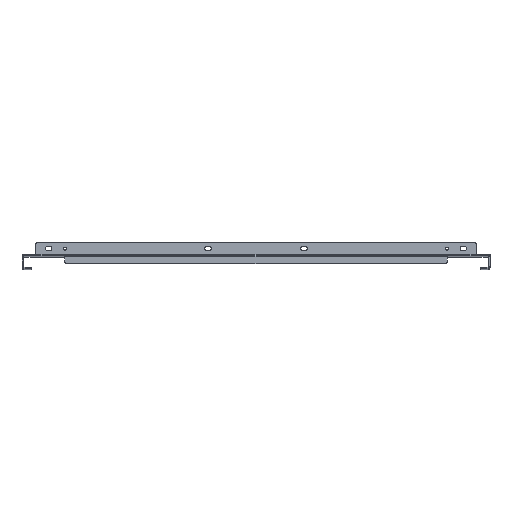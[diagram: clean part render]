
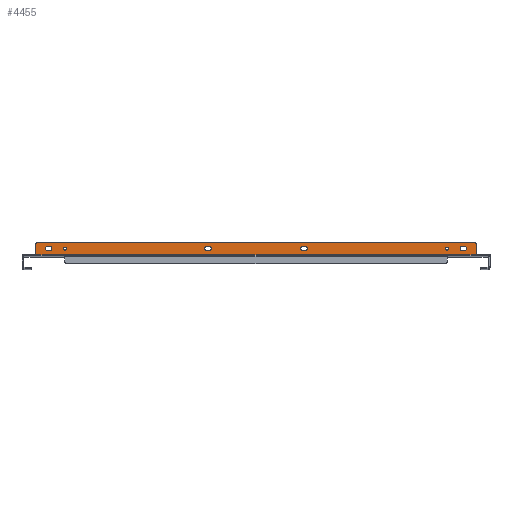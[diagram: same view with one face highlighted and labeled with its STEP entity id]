
A CAD part, top view. The second image highlights one B-rep face of the part: STEP entity #4455.
In plain terms, the highlighted planar face has unit normal (0, 0, 1).
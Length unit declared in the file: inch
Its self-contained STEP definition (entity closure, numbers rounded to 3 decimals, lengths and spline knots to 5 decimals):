
#1460=DIRECTION('',(-1.,0.,0.));
#1461=VECTOR('',#1460,40.807);
#1462=CARTESIAN_POINT('',(20.4035,0.07,-66.281));
#1463=LINE('',#1462,#1461);
#1707=CARTESIAN_POINT('',(20.1535,1.,-66.281));
#1708=DIRECTION('',(0.,0.,1.));
#1709=DIRECTION('',(1.,0.,0.));
#1710=AXIS2_PLACEMENT_3D('',#1707,#1708,#1709);
#1715=DIRECTION('',(0.,-1.,0.));
#1716=VECTOR('',#1715,0.93);
#1717=CARTESIAN_POINT('',(20.4035,1.,-66.281));
#1718=LINE('',#1717,#1716);
#1722=DIRECTION('',(0.,1.,0.));
#1723=VECTOR('',#1722,0.93);
#1724=CARTESIAN_POINT('',(-20.4035,0.07,-66.281));
#1725=LINE('',#1724,#1723);
#1729=CARTESIAN_POINT('',(-20.1535,1.,-66.281));
#1730=DIRECTION('',(0.,0.,1.));
#1731=DIRECTION('',(0.,1.,0.));
#1732=AXIS2_PLACEMENT_3D('',#1729,#1730,#1731);
#1737=DIRECTION('',(1.,0.,0.));
#1738=VECTOR('',#1737,40.307);
#1739=CARTESIAN_POINT('',(-20.1535,1.25,-66.281));
#1740=LINE('',#1739,#1738);
#1744=CARTESIAN_POINT('',(19.3334,0.6875,-66.281));
#1745=DIRECTION('',(0.,0.,1.));
#1746=DIRECTION('',(0.,-1.,0.));
#1747=AXIS2_PLACEMENT_3D('',#1744,#1745,#1746);
#1752=DIRECTION('',(1.,0.,0.));
#1753=VECTOR('',#1752,0.281);
#1754=CARTESIAN_POINT('',(19.0524,0.8595,-66.281));
#1755=LINE('',#1754,#1753);
#1759=CARTESIAN_POINT('',(19.0524,0.6875,-66.281));
#1760=DIRECTION('',(0.,0.,1.));
#1761=DIRECTION('',(0.,1.,0.));
#1762=AXIS2_PLACEMENT_3D('',#1759,#1760,#1761);
#1767=DIRECTION('',(-1.,0.,0.));
#1768=VECTOR('',#1767,0.281);
#1769=CARTESIAN_POINT('',(19.3334,0.5155,-66.281));
#1770=LINE('',#1769,#1768);
#1774=DIRECTION('',(1.,0.,0.));
#1775=VECTOR('',#1774,0.281);
#1776=CARTESIAN_POINT('',(-19.3334,0.8595,-66.281));
#1777=LINE('',#1776,#1775);
#1781=CARTESIAN_POINT('',(-19.3334,0.6875,-66.281));
#1782=DIRECTION('',(0.,0.,1.));
#1783=DIRECTION('',(0.,1.,0.));
#1784=AXIS2_PLACEMENT_3D('',#1781,#1782,#1783);
#1789=DIRECTION('',(-1.,0.,0.));
#1790=VECTOR('',#1789,0.281);
#1791=CARTESIAN_POINT('',(-19.0524,0.5155,-66.281));
#1792=LINE('',#1791,#1790);
#1796=CARTESIAN_POINT('',(-19.0524,0.6875,-66.281));
#1797=DIRECTION('',(0.,0.,1.));
#1798=DIRECTION('',(0.,-1.,0.));
#1799=AXIS2_PLACEMENT_3D('',#1796,#1797,#1798);
#1804=CARTESIAN_POINT('',(17.6929,0.6875,-66.281));
#1805=DIRECTION('',(0.,0.,1.));
#1806=DIRECTION('',(1.,0.,0.));
#1807=AXIS2_PLACEMENT_3D('',#1804,#1805,#1806);
#1812=CARTESIAN_POINT('',(17.6929,0.6875,-66.281));
#1813=DIRECTION('',(0.,0.,1.));
#1814=DIRECTION('',(-1.,0.,0.));
#1815=AXIS2_PLACEMENT_3D('',#1812,#1813,#1814);
#1820=CARTESIAN_POINT('',(-17.6929,0.6875,-66.281));
#1821=DIRECTION('',(0.,0.,1.));
#1822=DIRECTION('',(1.,0.,0.));
#1823=AXIS2_PLACEMENT_3D('',#1820,#1821,#1822);
#1828=CARTESIAN_POINT('',(-17.6929,0.6875,-66.281));
#1829=DIRECTION('',(0.,0.,1.));
#1830=DIRECTION('',(-1.,0.,0.));
#1831=AXIS2_PLACEMENT_3D('',#1828,#1829,#1830);
#1836=DIRECTION('',(-1.,0.,0.));
#1837=VECTOR('',#1836,0.281);
#1838=CARTESIAN_POINT('',(4.56963,0.8595,-66.281));
#1839=LINE('',#1838,#1837);
#1843=CARTESIAN_POINT('',(4.28863,0.6875,-66.281));
#1844=DIRECTION('',(0.,0.,-1.));
#1845=DIRECTION('',(0.,-1.,0.));
#1846=AXIS2_PLACEMENT_3D('',#1843,#1844,#1845);
#1851=DIRECTION('',(1.,0.,0.));
#1852=VECTOR('',#1851,0.281);
#1853=CARTESIAN_POINT('',(4.28863,0.5155,-66.281));
#1854=LINE('',#1853,#1852);
#1858=CARTESIAN_POINT('',(4.56963,0.6875,-66.281));
#1859=DIRECTION('',(0.,0.,-1.));
#1860=DIRECTION('',(0.,1.,0.));
#1861=AXIS2_PLACEMENT_3D('',#1858,#1859,#1860);
#1866=DIRECTION('',(-1.,0.,0.));
#1867=VECTOR('',#1866,0.281);
#1868=CARTESIAN_POINT('',(-4.28863,0.8595,-66.281));
#1869=LINE('',#1868,#1867);
#1873=CARTESIAN_POINT('',(-4.56963,0.6875,-66.281));
#1874=DIRECTION('',(0.,0.,-1.));
#1875=DIRECTION('',(0.,-1.,0.));
#1876=AXIS2_PLACEMENT_3D('',#1873,#1874,#1875);
#1881=DIRECTION('',(1.,0.,0.));
#1882=VECTOR('',#1881,0.281);
#1883=CARTESIAN_POINT('',(-4.56963,0.5155,-66.281));
#1884=LINE('',#1883,#1882);
#1888=CARTESIAN_POINT('',(-4.28863,0.6875,-66.281));
#1889=DIRECTION('',(0.,0.,-1.));
#1890=DIRECTION('',(0.,1.,0.));
#1891=AXIS2_PLACEMENT_3D('',#1888,#1889,#1890);
#2427=CARTESIAN_POINT('',(20.4035,0.07,-66.281));
#2428=CARTESIAN_POINT('',(-20.4035,0.07,-66.281));
#2429=VERTEX_POINT('',#2427);
#2430=VERTEX_POINT('',#2428);
#2467=CARTESIAN_POINT('',(20.4035,1.,-66.281));
#2468=VERTEX_POINT('',#2467);
#2469=CARTESIAN_POINT('',(20.1535,1.25,-66.281));
#2470=VERTEX_POINT('',#2469);
#2475=CARTESIAN_POINT('',(-20.1535,1.25,-66.281));
#2476=VERTEX_POINT('',#2475);
#2477=CARTESIAN_POINT('',(-20.4035,1.,-66.281));
#2478=VERTEX_POINT('',#2477);
#2511=CARTESIAN_POINT('',(19.3334,0.5155,-66.281));
#2512=CARTESIAN_POINT('',(19.3334,0.8595,-66.281));
#2513=VERTEX_POINT('',#2511);
#2514=VERTEX_POINT('',#2512);
#2515=CARTESIAN_POINT('',(19.0524,0.5155,-66.281));
#2516=VERTEX_POINT('',#2515);
#2517=CARTESIAN_POINT('',(19.0524,0.8595,-66.281));
#2518=VERTEX_POINT('',#2517);
#2519=CARTESIAN_POINT('',(-19.3334,0.8595,-66.281));
#2520=CARTESIAN_POINT('',(-19.0524,0.8595,-66.281));
#2521=VERTEX_POINT('',#2519);
#2522=VERTEX_POINT('',#2520);
#2523=CARTESIAN_POINT('',(-19.0524,0.5155,-66.281));
#2524=VERTEX_POINT('',#2523);
#2525=CARTESIAN_POINT('',(-19.3334,0.5155,-66.281));
#2526=VERTEX_POINT('',#2525);
#2575=CARTESIAN_POINT('',(17.8334,0.6875,-66.281));
#2576=CARTESIAN_POINT('',(17.5524,0.6875,-66.281));
#2577=VERTEX_POINT('',#2575);
#2578=VERTEX_POINT('',#2576);
#2583=CARTESIAN_POINT('',(-17.5524,0.6875,-66.281));
#2584=CARTESIAN_POINT('',(-17.8334,0.6875,-66.281));
#2585=VERTEX_POINT('',#2583);
#2586=VERTEX_POINT('',#2584);
#2727=CARTESIAN_POINT('',(-4.28863,0.8595,-66.281));
#2728=CARTESIAN_POINT('',(-4.56963,0.8595,-66.281));
#2729=VERTEX_POINT('',#2727);
#2730=VERTEX_POINT('',#2728);
#2731=CARTESIAN_POINT('',(-4.56963,0.5155,-66.281));
#2732=VERTEX_POINT('',#2731);
#2733=CARTESIAN_POINT('',(-4.28863,0.5155,-66.281));
#2734=VERTEX_POINT('',#2733);
#2735=CARTESIAN_POINT('',(4.56963,0.8595,-66.281));
#2736=CARTESIAN_POINT('',(4.28863,0.8595,-66.281));
#2737=VERTEX_POINT('',#2735);
#2738=VERTEX_POINT('',#2736);
#2739=CARTESIAN_POINT('',(4.28863,0.5155,-66.281));
#2740=VERTEX_POINT('',#2739);
#2741=CARTESIAN_POINT('',(4.56963,0.5155,-66.281));
#2742=VERTEX_POINT('',#2741);
#4389=CARTESIAN_POINT('',(-21.4795,-0.104,-66.281));
#4390=DIRECTION('',(0.,0.,-1.));
#4391=DIRECTION('',(-1.,0.,0.));
#4392=AXIS2_PLACEMENT_3D('',#4389,#4390,#4391);
#4393=PLANE('',#4392);
#4394=ORIENTED_EDGE('',*,*,#4356,.F.);
#4395=ORIENTED_EDGE('',*,*,#4372,.T.);
#4396=ORIENTED_EDGE('',*,*,#4197,.T.);
#4397=ORIENTED_EDGE('',*,*,#4256,.T.);
#4398=ORIENTED_EDGE('',*,*,#4273,.F.);
#4400=ORIENTED_EDGE('',*,*,#4399,.T.);
#4401=EDGE_LOOP('',(#4394,#4395,#4396,#4397,#4398,#4400));
#4402=FACE_OUTER_BOUND('',#4401,.F.);
#4404=ORIENTED_EDGE('',*,*,#4403,.T.);
#4406=ORIENTED_EDGE('',*,*,#4405,.F.);
#4408=ORIENTED_EDGE('',*,*,#4407,.T.);
#4410=ORIENTED_EDGE('',*,*,#4409,.F.);
#4411=EDGE_LOOP('',(#4404,#4406,#4408,#4410));
#4412=FACE_BOUND('',#4411,.F.);
#4414=ORIENTED_EDGE('',*,*,#4413,.F.);
#4416=ORIENTED_EDGE('',*,*,#4415,.T.);
#4418=ORIENTED_EDGE('',*,*,#4417,.F.);
#4420=ORIENTED_EDGE('',*,*,#4419,.T.);
#4421=EDGE_LOOP('',(#4414,#4416,#4418,#4420));
#4422=FACE_BOUND('',#4421,.F.);
#4424=ORIENTED_EDGE('',*,*,#4423,.T.);
#4426=ORIENTED_EDGE('',*,*,#4425,.T.);
#4427=EDGE_LOOP('',(#4424,#4426));
#4428=FACE_BOUND('',#4427,.F.);
#4430=ORIENTED_EDGE('',*,*,#4429,.T.);
#4432=ORIENTED_EDGE('',*,*,#4431,.T.);
#4433=EDGE_LOOP('',(#4430,#4432));
#4434=FACE_BOUND('',#4433,.F.);
#4436=ORIENTED_EDGE('',*,*,#4435,.T.);
#4438=ORIENTED_EDGE('',*,*,#4437,.F.);
#4440=ORIENTED_EDGE('',*,*,#4439,.T.);
#4442=ORIENTED_EDGE('',*,*,#4441,.F.);
#4443=EDGE_LOOP('',(#4436,#4438,#4440,#4442));
#4444=FACE_BOUND('',#4443,.F.);
#4446=ORIENTED_EDGE('',*,*,#4445,.T.);
#4448=ORIENTED_EDGE('',*,*,#4447,.F.);
#4450=ORIENTED_EDGE('',*,*,#4449,.T.);
#4452=ORIENTED_EDGE('',*,*,#4451,.F.);
#4453=EDGE_LOOP('',(#4446,#4448,#4450,#4452));
#4454=FACE_BOUND('',#4453,.F.);
#1711=CIRCLE('',#1710,0.25);
#1733=CIRCLE('',#1732,0.25);
#1748=CIRCLE('',#1747,0.172);
#1763=CIRCLE('',#1762,0.172);
#1785=CIRCLE('',#1784,0.172);
#1800=CIRCLE('',#1799,0.172);
#1808=CIRCLE('',#1807,0.1405);
#1816=CIRCLE('',#1815,0.1405);
#1824=CIRCLE('',#1823,0.1405);
#1832=CIRCLE('',#1831,0.1405);
#1847=CIRCLE('',#1846,0.172);
#1862=CIRCLE('',#1861,0.172);
#1877=CIRCLE('',#1876,0.172);
#1892=CIRCLE('',#1891,0.172);
#4197=EDGE_CURVE('',#2429,#2430,#1463,.T.);
#4256=EDGE_CURVE('',#2430,#2478,#1725,.T.);
#4273=EDGE_CURVE('',#2476,#2478,#1733,.T.);
#4356=EDGE_CURVE('',#2468,#2470,#1711,.T.);
#4372=EDGE_CURVE('',#2468,#2429,#1718,.T.);
#4399=EDGE_CURVE('',#2476,#2470,#1740,.T.);
#4403=EDGE_CURVE('',#2513,#2514,#1748,.T.);
#4405=EDGE_CURVE('',#2518,#2514,#1755,.T.);
#4407=EDGE_CURVE('',#2518,#2516,#1763,.T.);
#4409=EDGE_CURVE('',#2513,#2516,#1770,.T.);
#4413=EDGE_CURVE('',#2521,#2522,#1777,.T.);
#4415=EDGE_CURVE('',#2521,#2526,#1785,.T.);
#4417=EDGE_CURVE('',#2524,#2526,#1792,.T.);
#4419=EDGE_CURVE('',#2524,#2522,#1800,.T.);
#4423=EDGE_CURVE('',#2577,#2578,#1808,.T.);
#4425=EDGE_CURVE('',#2578,#2577,#1816,.T.);
#4429=EDGE_CURVE('',#2585,#2586,#1824,.T.);
#4431=EDGE_CURVE('',#2586,#2585,#1832,.T.);
#4435=EDGE_CURVE('',#2737,#2738,#1839,.T.);
#4437=EDGE_CURVE('',#2740,#2738,#1847,.T.);
#4439=EDGE_CURVE('',#2740,#2742,#1854,.T.);
#4441=EDGE_CURVE('',#2737,#2742,#1862,.T.);
#4445=EDGE_CURVE('',#2729,#2730,#1869,.T.);
#4447=EDGE_CURVE('',#2732,#2730,#1877,.T.);
#4449=EDGE_CURVE('',#2732,#2734,#1884,.T.);
#4451=EDGE_CURVE('',#2729,#2734,#1892,.T.);
#4455=ADVANCED_FACE('',(#4402,#4412,#4422,#4428,#4434,#4444,#4454),#4393,.F.);
